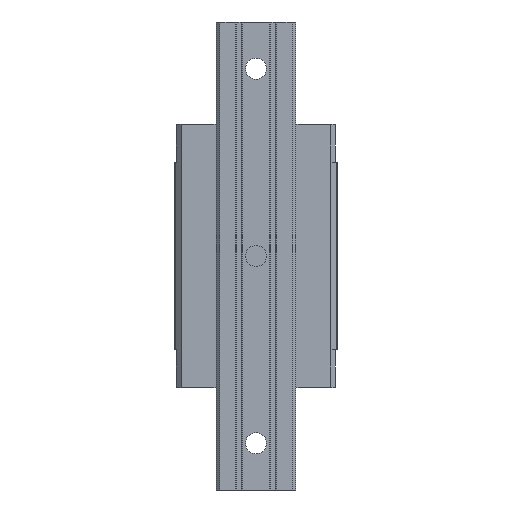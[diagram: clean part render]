
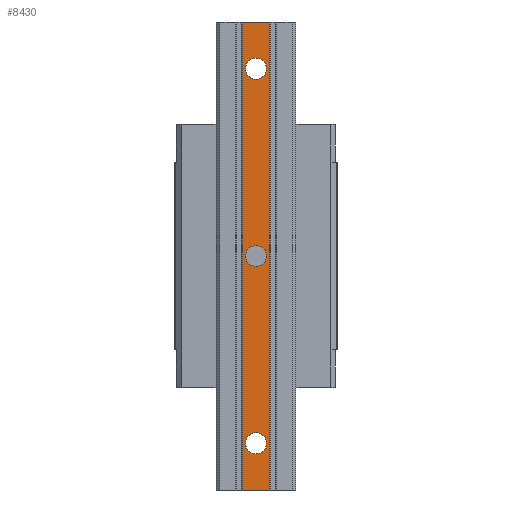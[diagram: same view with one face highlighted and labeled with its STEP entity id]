
A CAD part, front view. The second image highlights one B-rep face of the part: STEP entity #8430.
In plain terms, the highlighted planar face has unit normal (0, -1, 0).
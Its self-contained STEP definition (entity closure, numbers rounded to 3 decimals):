
#158 = EDGE_LOOP ( 'NONE', ( #4180, #4410 ) ) ;
#161 = EDGE_CURVE ( 'NONE', #3234, #12555, #4023, .T. ) ;
#205 = CARTESIAN_POINT ( 'NONE',  ( 0., -29., 0. ) ) ;
#219 = VERTEX_POINT ( 'NONE', #8682 ) ;
#342 = EDGE_LOOP ( 'NONE', ( #11163, #3255, #404, #10174 ) ) ;
#404 = ORIENTED_EDGE ( 'NONE', *, *, #7485, .T. ) ;
#727 = DIRECTION ( 'NONE',  ( 0., 0., 1. ) ) ;
#741 = DIRECTION ( 'NONE',  ( 0., 1., 0. ) ) ;
#920 = DIRECTION ( 'NONE',  ( 0., 0., 1. ) ) ;
#1027 = AXIS2_PLACEMENT_3D ( 'NONE', #205, #1191, #8175 ) ;
#1191 = DIRECTION ( 'NONE',  ( 0., 1., 0. ) ) ;
#1511 = CIRCLE ( 'NONE', #7192, 4.5 ) ;
#1531 = CARTESIAN_POINT ( 'NONE',  ( 0., -29., -80. ) ) ;
#1572 = PLANE ( 'NONE',  #11960 ) ;
#2262 = EDGE_LOOP ( 'NONE', ( #2323, #10445 ) ) ;
#2323 = ORIENTED_EDGE ( 'NONE', *, *, #11479, .T. ) ;
#2643 = DIRECTION ( 'NONE',  ( 0., 0., 1. ) ) ;
#2875 = CARTESIAN_POINT ( 'NONE',  ( 0., -29., 84.5 ) ) ;
#3015 = CARTESIAN_POINT ( 'NONE',  ( 0., -29., -75.5 ) ) ;
#3134 = DIRECTION ( 'NONE',  ( 0., 1., 0. ) ) ;
#3234 = VERTEX_POINT ( 'NONE', #10643 ) ;
#3255 = ORIENTED_EDGE ( 'NONE', *, *, #10383, .T. ) ;
#3400 = VECTOR ( 'NONE', #11681, 1000. ) ;
#3442 = EDGE_CURVE ( 'NONE', #8491, #8570, #12450, .T. ) ;
#3603 = CARTESIAN_POINT ( 'NONE',  ( 0., -29., 0. ) ) ;
#3614 = AXIS2_PLACEMENT_3D ( 'NONE', #1531, #5392, #12243 ) ;
#3687 = EDGE_CURVE ( 'NONE', #8570, #8491, #8578, .T. ) ;
#3792 = VECTOR ( 'NONE', #5845, 1000. ) ;
#3859 = CARTESIAN_POINT ( 'NONE',  ( -5.85, -29., -100. ) ) ;
#3906 = CIRCLE ( 'NONE', #5913, 4.5 ) ;
#3915 = AXIS2_PLACEMENT_3D ( 'NONE', #6087, #3134, #5261 ) ;
#4023 = LINE ( 'NONE', #7895, #3792 ) ;
#4180 = ORIENTED_EDGE ( 'NONE', *, *, #6152, .T. ) ;
#4410 = ORIENTED_EDGE ( 'NONE', *, *, #6459, .T. ) ;
#4495 = ORIENTED_EDGE ( 'NONE', *, *, #3442, .T. ) ;
#4551 = LINE ( 'NONE', #3859, #3400 ) ;
#4733 = CARTESIAN_POINT ( 'NONE',  ( 0., -29., -80. ) ) ;
#5261 = DIRECTION ( 'NONE',  ( 0., 0., 1. ) ) ;
#5287 = EDGE_CURVE ( 'NONE', #12282, #12513, #1511, .T. ) ;
#5305 = DIRECTION ( 'NONE',  ( 0., -1., 0. ) ) ;
#5368 = FACE_OUTER_BOUND ( 'NONE', #342, .T. ) ;
#5392 = DIRECTION ( 'NONE',  ( 0., 1., 0. ) ) ;
#5518 = CIRCLE ( 'NONE', #3915, 4.5 ) ;
#5742 = CARTESIAN_POINT ( 'NONE',  ( 0., -29., -4.5 ) ) ;
#5845 = DIRECTION ( 'NONE',  ( 1., 0., 0. ) ) ;
#5913 = AXIS2_PLACEMENT_3D ( 'NONE', #8644, #741, #920 ) ;
#6087 = CARTESIAN_POINT ( 'NONE',  ( 0., -29., 80. ) ) ;
#6109 = CARTESIAN_POINT ( 'NONE',  ( 0., -29., -84.5 ) ) ;
#6152 = EDGE_CURVE ( 'NONE', #11912, #11589, #3906, .T. ) ;
#6314 = AXIS2_PLACEMENT_3D ( 'NONE', #3603, #8349, #7473 ) ;
#6325 = DIRECTION ( 'NONE',  ( 0., 0., -1. ) ) ;
#6392 = FACE_BOUND ( 'NONE', #12265, .T. ) ;
#6459 = EDGE_CURVE ( 'NONE', #11589, #11912, #5518, .T. ) ;
#6483 = CARTESIAN_POINT ( 'NONE',  ( 5.85, -29., -100. ) ) ;
#6682 = DIRECTION ( 'NONE',  ( 1., 0., 0. ) ) ;
#6730 = VERTEX_POINT ( 'NONE', #9143 ) ;
#7192 = AXIS2_PLACEMENT_3D ( 'NONE', #4733, #7607, #727 ) ;
#7297 = FACE_BOUND ( 'NONE', #2262, .T. ) ;
#7473 = DIRECTION ( 'NONE',  ( 0., 0., 1. ) ) ;
#7485 = EDGE_CURVE ( 'NONE', #219, #12555, #10763, .T. ) ;
#7607 = DIRECTION ( 'NONE',  ( 0., 1., 0. ) ) ;
#7884 = EDGE_CURVE ( 'NONE', #3234, #6730, #4551, .T. ) ;
#7895 = CARTESIAN_POINT ( 'NONE',  ( 0., -29., 100. ) ) ;
#7956 = CARTESIAN_POINT ( 'NONE',  ( 5.85, -29., 100. ) ) ;
#8175 = DIRECTION ( 'NONE',  ( 0., 0., 1. ) ) ;
#8349 = DIRECTION ( 'NONE',  ( 0., 1., 0. ) ) ;
#8430 = ADVANCED_FACE ( 'NONE', ( #6392, #12091, #7297, #5368 ), #1572, .T. ) ;
#8491 = VERTEX_POINT ( 'NONE', #10367 ) ;
#8570 = VERTEX_POINT ( 'NONE', #5742 ) ;
#8578 = CIRCLE ( 'NONE', #6314, 4.5 ) ;
#8644 = CARTESIAN_POINT ( 'NONE',  ( 0., -29., 80. ) ) ;
#8682 = CARTESIAN_POINT ( 'NONE',  ( 5.85, -29., -100. ) ) ;
#9085 = CIRCLE ( 'NONE', #3614, 4.5 ) ;
#9143 = CARTESIAN_POINT ( 'NONE',  ( -5.85, -29., -100. ) ) ;
#9367 = LINE ( 'NONE', #10479, #10079 ) ;
#9684 = VECTOR ( 'NONE', #2643, 1000. ) ;
#10079 = VECTOR ( 'NONE', #6682, 1000. ) ;
#10174 = ORIENTED_EDGE ( 'NONE', *, *, #161, .F. ) ;
#10367 = CARTESIAN_POINT ( 'NONE',  ( 0., -29., 4.5 ) ) ;
#10383 = EDGE_CURVE ( 'NONE', #6730, #219, #9367, .T. ) ;
#10389 = ORIENTED_EDGE ( 'NONE', *, *, #3687, .T. ) ;
#10445 = ORIENTED_EDGE ( 'NONE', *, *, #5287, .T. ) ;
#10479 = CARTESIAN_POINT ( 'NONE',  ( 0., -29., -100. ) ) ;
#10585 = CARTESIAN_POINT ( 'NONE',  ( 0., -29., 75.5 ) ) ;
#10643 = CARTESIAN_POINT ( 'NONE',  ( -5.85, -29., 100. ) ) ;
#10763 = LINE ( 'NONE', #6483, #9684 ) ;
#11163 = ORIENTED_EDGE ( 'NONE', *, *, #7884, .T. ) ;
#11479 = EDGE_CURVE ( 'NONE', #12513, #12282, #9085, .T. ) ;
#11589 = VERTEX_POINT ( 'NONE', #10585 ) ;
#11681 = DIRECTION ( 'NONE',  ( 0., 0., -1. ) ) ;
#11912 = VERTEX_POINT ( 'NONE', #2875 ) ;
#11960 = AXIS2_PLACEMENT_3D ( 'NONE', #12285, #5305, #6325 ) ;
#12091 = FACE_BOUND ( 'NONE', #158, .T. ) ;
#12243 = DIRECTION ( 'NONE',  ( 0., 0., 1. ) ) ;
#12265 = EDGE_LOOP ( 'NONE', ( #4495, #10389 ) ) ;
#12282 = VERTEX_POINT ( 'NONE', #6109 ) ;
#12285 = CARTESIAN_POINT ( 'NONE',  ( -5.85, -29., -100. ) ) ;
#12450 = CIRCLE ( 'NONE', #1027, 4.5 ) ;
#12513 = VERTEX_POINT ( 'NONE', #3015 ) ;
#12555 = VERTEX_POINT ( 'NONE', #7956 ) ;
